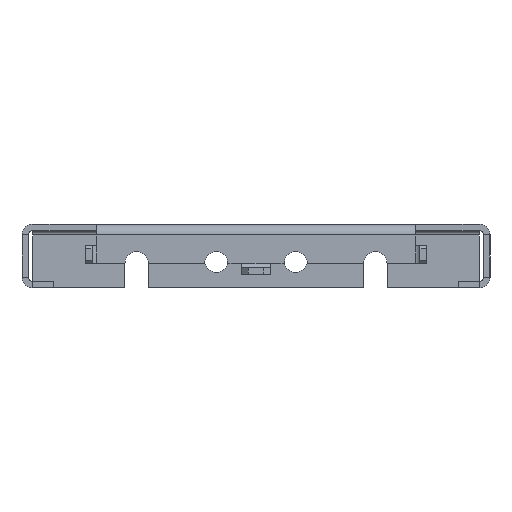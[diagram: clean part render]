
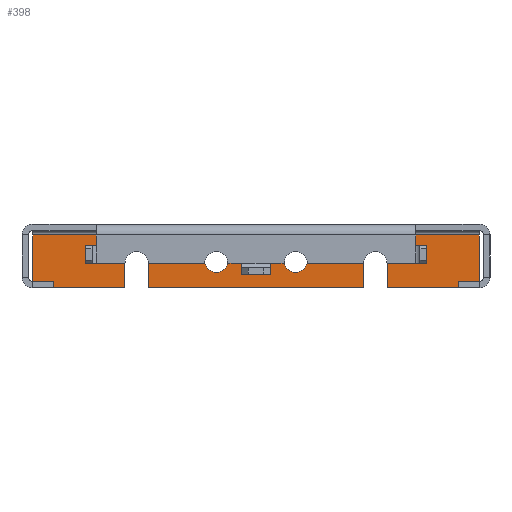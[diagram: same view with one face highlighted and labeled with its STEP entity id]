
A CAD part, left-side view. The second image highlights one B-rep face of the part: STEP entity #398.
In plain terms, the highlighted planar face has unit normal (-1, 0, 0).
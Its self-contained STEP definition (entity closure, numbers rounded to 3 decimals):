
#398=ADVANCED_FACE('',(#3308,#3310,#3312),#3314,.F.);
#3308=FACE_BOUND('',#3309,.T.);
#3309=EDGE_LOOP('',(#6339,#6340,#6341,#6342,#6343,#6344,#6345,#6346,#6347,#6348,
#6349,#6350));
#3310=FACE_BOUND('',#3311,.T.);
#3311=EDGE_LOOP('',(#6351));
#3312=FACE_BOUND('',#3313,.T.);
#3313=EDGE_LOOP('',(#6352));
#3314=PLANE('',#3315);
#3315=AXIS2_PLACEMENT_3D('',#3316,#3317,#3318);
#3316=CARTESIAN_POINT('',(341.15,0.,0.));
#3317=DIRECTION('',(1.,0.,0.));
#3318=DIRECTION('',(0.,0.,-1.));
#6339=ORIENTED_EDGE('',*,*,#8637,.F.);
#6340=ORIENTED_EDGE('',*,*,#8638,.T.);
#6341=ORIENTED_EDGE('',*,*,#8639,.F.);
#6342=ORIENTED_EDGE('',*,*,#8640,.T.);
#6343=ORIENTED_EDGE('',*,*,#8641,.T.);
#6344=ORIENTED_EDGE('',*,*,#8642,.F.);
#6345=ORIENTED_EDGE('',*,*,#8643,.T.);
#6346=ORIENTED_EDGE('',*,*,#8644,.T.);
#6347=ORIENTED_EDGE('',*,*,#8645,.T.);
#6348=ORIENTED_EDGE('',*,*,#8646,.T.);
#6349=ORIENTED_EDGE('',*,*,#8647,.T.);
#6350=ORIENTED_EDGE('',*,*,#8648,.T.);
#6351=ORIENTED_EDGE('',*,*,#7724,.T.);
#6352=ORIENTED_EDGE('',*,*,#7722,.T.);
#7722=EDGE_CURVE('',#9003,#9003,#9004,.T.);
#7724=EDGE_CURVE('',#9007,#9007,#9008,.T.);
#8637=EDGE_CURVE('',#10677,#10678,#10679,.T.);
#8638=EDGE_CURVE('',#10677,#10680,#10681,.T.);
#8639=EDGE_CURVE('',#10682,#10680,#10683,.T.);
#8640=EDGE_CURVE('',#10682,#10684,#10685,.T.);
#8641=EDGE_CURVE('',#10684,#10686,#10687,.T.);
#8642=EDGE_CURVE('',#10688,#10686,#10689,.T.);
#8643=EDGE_CURVE('',#10688,#10690,#10691,.T.);
#8644=EDGE_CURVE('',#10690,#10692,#10693,.T.);
#8645=EDGE_CURVE('',#10692,#10694,#10695,.T.);
#8646=EDGE_CURVE('',#10694,#10696,#10697,.T.);
#8647=EDGE_CURVE('',#10696,#10698,#10699,.T.);
#8648=EDGE_CURVE('',#10698,#10678,#10700,.T.);
#9003=VERTEX_POINT('',#11154);
#9004=CIRCLE('',#11155,3.65);
#9007=VERTEX_POINT('',#11164);
#9008=CIRCLE('',#11165,3.65);
#10677=VERTEX_POINT('',#15191);
#10678=VERTEX_POINT('',#15192);
#10679=LINE('',#15193,#15194);
#10680=VERTEX_POINT('',#15196);
#10681=CIRCLE('',#15197,3.65);
#10682=VERTEX_POINT('',#15201);
#10683=LINE('',#15202,#15203);
#10684=VERTEX_POINT('',#15205);
#10685=LINE('',#15206,#15207);
#10686=VERTEX_POINT('',#15209);
#10687=LINE('',#15210,#15211);
#10688=VERTEX_POINT('',#15213);
#10689=LINE('',#15214,#15215);
#10690=VERTEX_POINT('',#15217);
#10691=LINE('',#15218,#15219);
#10692=VERTEX_POINT('',#15221);
#10693=LINE('',#15222,#15223);
#10694=VERTEX_POINT('',#15225);
#10695=LINE('',#15226,#15227);
#10696=VERTEX_POINT('',#15229);
#10697=CIRCLE('',#15230,3.65);
#10698=VERTEX_POINT('',#15234);
#10699=LINE('',#15235,#15236);
#10700=LINE('',#15238,#15239);
#11154=CARTESIAN_POINT('',(341.15,-12.5,-15.15));
#11155=AXIS2_PLACEMENT_3D('',#11156,#11157,#11158);
#11156=CARTESIAN_POINT('',(341.15,-12.5,-11.5));
#11157=DIRECTION('',(1.,0.,0.));
#11158=DIRECTION('',(0.,0.,1.));
#11164=CARTESIAN_POINT('',(341.15,12.5,-15.15));
#11165=AXIS2_PLACEMENT_3D('',#11166,#11167,#11168);
#11166=CARTESIAN_POINT('',(341.15,12.5,-11.5));
#11167=DIRECTION('',(1.,0.,0.));
#11168=DIRECTION('',(0.,0.,1.));
#15191=CARTESIAN_POINT('',(341.15,-33.85,-11.5));
#15192=CARTESIAN_POINT('',(341.15,-33.85,-20.));
#15193=CARTESIAN_POINT('',(341.15,-33.85,-11.5));
#15194=VECTOR('',#15195,1.);
#15195=DIRECTION('',(0.,0.,-1.));
#15196=CARTESIAN_POINT('',(341.15,-41.15,-11.5));
#15197=AXIS2_PLACEMENT_3D('',#15198,#15199,#15200);
#15198=CARTESIAN_POINT('',(341.15,-37.5,-11.5));
#15199=DIRECTION('',(1.,0.,0.));
#15200=DIRECTION('',(0.,1.,0.));
#15201=CARTESIAN_POINT('',(341.15,-41.15,-20.));
#15202=CARTESIAN_POINT('',(341.15,-41.15,-20.));
#15203=VECTOR('',#15204,1.);
#15204=DIRECTION('',(0.,0.,1.));
#15205=CARTESIAN_POINT('',(341.15,-70.1,-20.));
#15206=CARTESIAN_POINT('',(341.15,-41.15,-20.));
#15207=VECTOR('',#15208,1.);
#15208=DIRECTION('',(0.,-1.,0.));
#15209=CARTESIAN_POINT('',(341.15,-70.1,-3.4));
#15210=CARTESIAN_POINT('',(341.15,-70.1,-20.));
#15211=VECTOR('',#15212,1.);
#15212=DIRECTION('',(0.,0.,1.));
#15213=CARTESIAN_POINT('',(341.15,70.1,-3.4));
#15214=CARTESIAN_POINT('',(341.15,70.1,-3.4));
#15215=VECTOR('',#15216,1.);
#15216=DIRECTION('',(0.,-1.,0.));
#15217=CARTESIAN_POINT('',(341.15,70.1,-20.));
#15218=CARTESIAN_POINT('',(341.15,70.1,-3.4));
#15219=VECTOR('',#15220,1.);
#15220=DIRECTION('',(0.,0.,-1.));
#15221=CARTESIAN_POINT('',(341.15,41.15,-20.));
#15222=CARTESIAN_POINT('',(341.15,70.1,-20.));
#15223=VECTOR('',#15224,1.);
#15224=DIRECTION('',(0.,-1.,0.));
#15225=CARTESIAN_POINT('',(341.15,41.15,-11.5));
#15226=CARTESIAN_POINT('',(341.15,41.15,-20.));
#15227=VECTOR('',#15228,1.);
#15228=DIRECTION('',(0.,0.,1.));
#15229=CARTESIAN_POINT('',(341.15,33.85,-11.5));
#15230=AXIS2_PLACEMENT_3D('',#15231,#15232,#15233);
#15231=CARTESIAN_POINT('',(341.15,37.5,-11.5));
#15232=DIRECTION('',(1.,0.,0.));
#15233=DIRECTION('',(0.,1.,0.));
#15234=CARTESIAN_POINT('',(341.15,33.85,-20.));
#15235=CARTESIAN_POINT('',(341.15,33.85,-11.5));
#15236=VECTOR('',#15237,1.);
#15237=DIRECTION('',(0.,0.,-1.));
#15238=CARTESIAN_POINT('',(341.15,33.85,-20.));
#15239=VECTOR('',#15240,1.);
#15240=DIRECTION('',(0.,-1.,0.));
